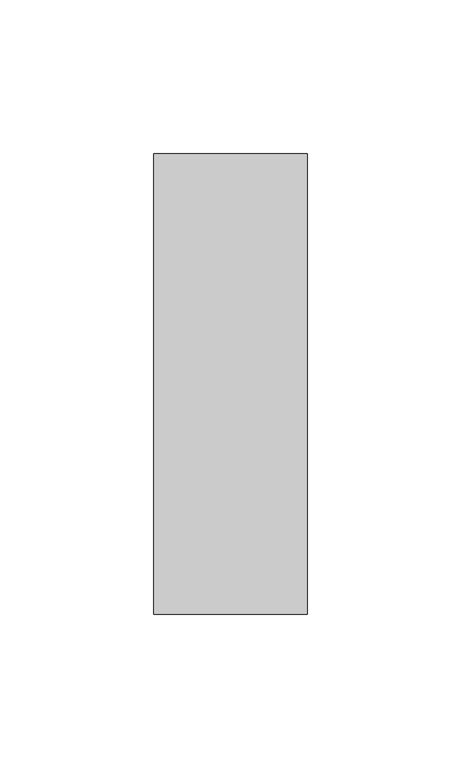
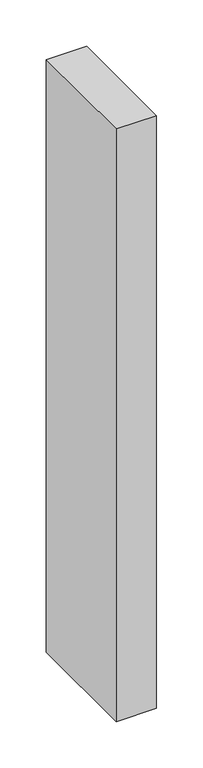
"""IFC4 building model written with IfcOpenShell, lengths in millimetres: member geometry, Прямоугольный импост : 50 x 150 мм."""

from ifc_helpers import new_model, si_unit, frame, origin, place, context, project, spatial, polyline, outline, extrude, source, transform, mapped, element, save


def member_5d14ff3d(model_context):
    return source(origin(), model_context, "Body", "SweptSolid", [
        extrude(outline(polyline([(25.0, 75.0), (25.0, -75.0), (-25.0, -75.0), (-25.0, 75.0), (25.0, 75.0)])), frame((0.0, 0.0, -779.2978594), z_axis=(0.0, 0.0, 1.0), x_axis=(1.0, 0.0, 0.0)), (0.0, 0.0, 1.0), 779.2978594),
    ])


if __name__ == "__main__":
    model = new_model("IFC4")
    model_context = context("Model", 3, world=origin())
    ifc_project = project(units=[si_unit("LENGTHUNIT", "METRE", prefix="MILLI")], contexts=[model_context])
    site = spatial("IfcSite", under=ifc_project)
    building = spatial("IfcBuilding", under=site)
    placement = place(None, origin())
    member_shape = member_5d14ff3d(model_context)
    element("IfcMember", 1, ObjectType="Прямоугольный импост : 50 x 150 мм", at=placement, inside=building, context=model_context, shape_type="MappedRepresentation", body=[
        mapped(member_shape, transform((0.0, 0.0, 0.0), x_axis=(1.0, 0.0, 0.0), y_axis=(0.0, 1.0, 0.0), z_axis=(0.0, 0.0, 1.0))),
    ])
    save(model, "model.ifc")
